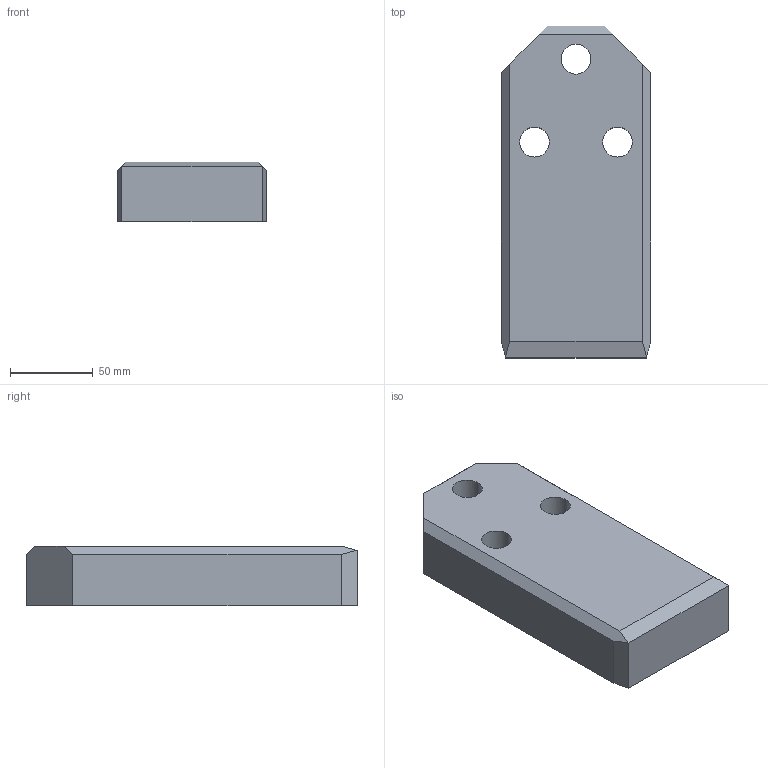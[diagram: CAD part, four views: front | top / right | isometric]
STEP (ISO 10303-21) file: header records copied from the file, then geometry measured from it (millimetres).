
FILE_DESCRIPTION(('CATIA V5 STEP Exchange'),'2;1');
FILE_NAME('C:\Users\borellobunino\Desktop\3D X SITO CF\A927\GSB_OILLESS_G2290509020036\STEP-2.03\A927-90X200X36.stp','2019-07-14T20:01:55+00:00',('none'),('none'),'CATIA Version 5 Release 20 GA (IN-10)','CATIA V5 STEP AP203','none');
FILE_SCHEMA(('CONFIG_CONTROL_DESIGN'));
Length unit declared in the file: millimetre
Products named in the file (1): A927-90X200X36
Bounding box: 90 x 200 x 36 mm (x, y, z)
Volume: 567602.5 mm3; surface area: 58449.4 mm2
Topology: 1 solids, 1 shells, 35 faces, 84 edges, 54 vertices
Faces by surface type: plane 17, cylinder 12, cone 6
Entity records: 1296 total; most frequent: CARTESIAN_POINT 450, ORIENTED_EDGE 168, DIRECTION 142, EDGE_CURVE 84, AXIS2_PLACEMENT_3D 54, VECTOR 54, LINE 54, VERTEX_POINT 54
